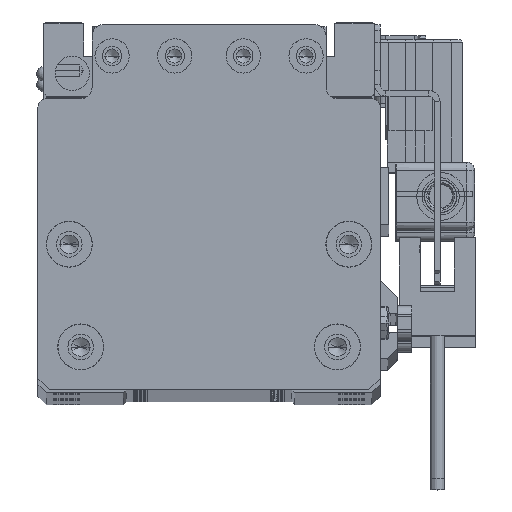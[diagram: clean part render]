
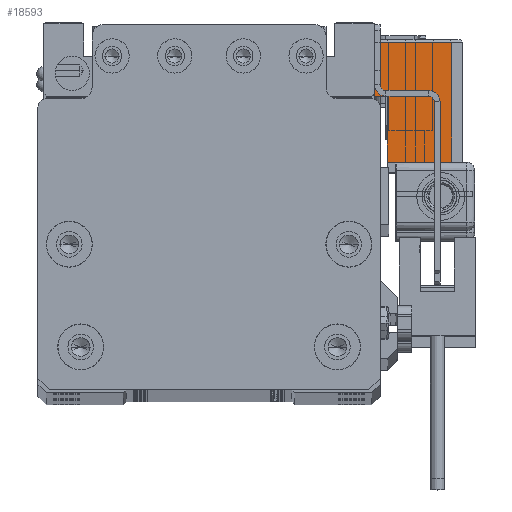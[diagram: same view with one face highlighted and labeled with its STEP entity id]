
A CAD part, top view. The second image highlights one B-rep face of the part: STEP entity #18593.
In plain terms, the highlighted planar face has unit normal (0, 0, 1) as drawn and (-1, 0, 0) by its records, which use the part's own axes.
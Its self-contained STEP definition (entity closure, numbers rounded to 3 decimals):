
#505 = DIRECTION ( 'NONE',  ( 0., 0., 1. ) ) ;
#1586 = VERTEX_POINT ( 'NONE', #15149 ) ;
#1960 = FACE_OUTER_BOUND ( 'NONE', #38863, .T. ) ;
#2861 = CARTESIAN_POINT ( 'NONE',  ( -17., -10.75, -13.3 ) ) ;
#3454 = VERTEX_POINT ( 'NONE', #36029 ) ;
#4930 = VECTOR ( 'NONE', #53820, 1000. ) ;
#5065 = CARTESIAN_POINT ( 'NONE',  ( -17., 0.75, -15.5 ) ) ;
#5119 = LINE ( 'NONE', #50956, #5297 ) ;
#5297 = VECTOR ( 'NONE', #21269, 1000. ) ;
#5760 = ORIENTED_EDGE ( 'NONE', *, *, #11712, .T. ) ;
#9708 = EDGE_CURVE ( 'NONE', #58131, #3454, #32888, .T. ) ;
#11712 = EDGE_CURVE ( 'NONE', #56271, #35740, #53880, .T. ) ;
#11949 = CARTESIAN_POINT ( 'NONE',  ( -17., 10.25, -2. ) ) ;
#13715 = CARTESIAN_POINT ( 'NONE',  ( -17., -10.75, -15.5 ) ) ;
#14484 = LINE ( 'NONE', #54304, #16413 ) ;
#15149 = CARTESIAN_POINT ( 'NONE',  ( -17., 10.25, -15.5 ) ) ;
#16413 = VECTOR ( 'NONE', #37384, 1000. ) ;
#18593 = ADVANCED_FACE ( 'NONE', ( #1960 ), #19234, .T. ) ;
#19234 = PLANE ( 'NONE',  #27985 ) ;
#20932 = ORIENTED_EDGE ( 'NONE', *, *, #36943, .T. ) ;
#21269 = DIRECTION ( 'NONE',  ( 0., 0., -1. ) ) ;
#25255 = CARTESIAN_POINT ( 'NONE',  ( -17., -10.75, -2. ) ) ;
#27985 = AXIS2_PLACEMENT_3D ( 'NONE', #29753, #29402, #505 ) ;
#28007 = DIRECTION ( 'NONE',  ( 0., 0., 1. ) ) ;
#29402 = DIRECTION ( 'NONE',  ( -1., 0., 0. ) ) ;
#29753 = CARTESIAN_POINT ( 'NONE',  ( -17., -10.75, -15.5 ) ) ;
#31720 = ORIENTED_EDGE ( 'NONE', *, *, #9708, .T. ) ;
#31727 = EDGE_CURVE ( 'NONE', #46273, #1586, #5119, .T. ) ;
#32888 = LINE ( 'NONE', #73840, #66181 ) ;
#35740 = VERTEX_POINT ( 'NONE', #25255 ) ;
#36029 = CARTESIAN_POINT ( 'NONE',  ( -17., 0.75, -13.3 ) ) ;
#36550 = CARTESIAN_POINT ( 'NONE',  ( -17., 10.75, -2. ) ) ;
#36646 = CARTESIAN_POINT ( 'NONE',  ( -17., -10.75, -13.3 ) ) ;
#36943 = EDGE_CURVE ( 'NONE', #1586, #58131, #14484, .T. ) ;
#37384 = DIRECTION ( 'NONE',  ( 0., -1., 0. ) ) ;
#37769 = VECTOR ( 'NONE', #70856, 1000. ) ;
#38863 = EDGE_LOOP ( 'NONE', ( #51759, #61452, #20932, #31720, #64099, #5760 ) ) ;
#46273 = VERTEX_POINT ( 'NONE', #11949 ) ;
#47212 = VECTOR ( 'NONE', #52761, 1000. ) ;
#50956 = CARTESIAN_POINT ( 'NONE',  ( -17., 10.25, -15.5 ) ) ;
#51759 = ORIENTED_EDGE ( 'NONE', *, *, #68197, .T. ) ;
#52761 = DIRECTION ( 'NONE',  ( 0., 0., 1. ) ) ;
#53820 = DIRECTION ( 'NONE',  ( 0., 1., 0. ) ) ;
#53880 = LINE ( 'NONE', #13715, #47212 ) ;
#54304 = CARTESIAN_POINT ( 'NONE',  ( -17., -10.75, -15.5 ) ) ;
#56271 = VERTEX_POINT ( 'NONE', #36646 ) ;
#58131 = VERTEX_POINT ( 'NONE', #5065 ) ;
#59936 = LINE ( 'NONE', #2861, #37769 ) ;
#61452 = ORIENTED_EDGE ( 'NONE', *, *, #31727, .T. ) ;
#64099 = ORIENTED_EDGE ( 'NONE', *, *, #71698, .T. ) ;
#65091 = LINE ( 'NONE', #36550, #4930 ) ;
#66181 = VECTOR ( 'NONE', #28007, 1000. ) ;
#68197 = EDGE_CURVE ( 'NONE', #35740, #46273, #65091, .T. ) ;
#70856 = DIRECTION ( 'NONE',  ( 0., -1., 0. ) ) ;
#71698 = EDGE_CURVE ( 'NONE', #3454, #56271, #59936, .T. ) ;
#73840 = CARTESIAN_POINT ( 'NONE',  ( -17., 0.75, -15.5 ) ) ;
